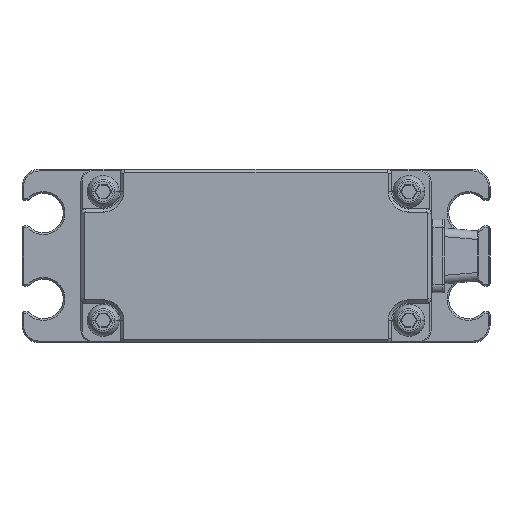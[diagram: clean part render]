
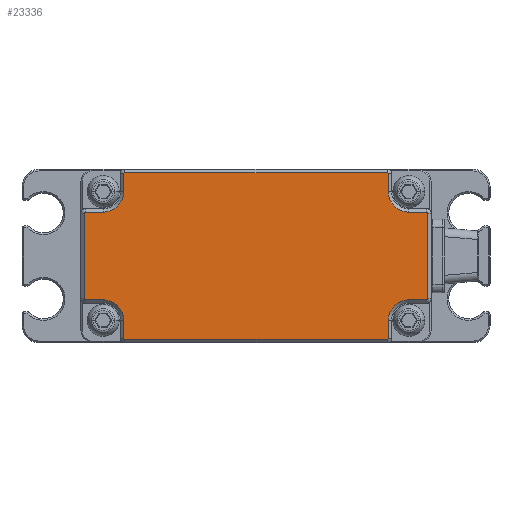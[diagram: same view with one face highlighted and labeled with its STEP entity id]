
A CAD part, front view. The second image highlights one B-rep face of the part: STEP entity #23336.
In plain terms, the highlighted planar face has unit normal (0, -1, 0).
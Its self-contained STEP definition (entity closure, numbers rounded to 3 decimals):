
#8034=CARTESIAN_POINT('',(15.3,-17.4,-9.6));
#8035=DIRECTION('',(0.,1.,0.));
#8036=DIRECTION('',(1.,0.,0.));
#8037=AXIS2_PLACEMENT_3D('',#8034,#8035,#8036);
#8039=DIRECTION('',(-1.,0.,0.));
#8040=VECTOR('',#8039,30.6);
#8041=CARTESIAN_POINT('',(15.3,-17.4,
-9.7));
#8042=LINE('',#8041,#8040);
#8043=CARTESIAN_POINT('',(-15.3,-17.4,-9.6));
#8044=DIRECTION('',(0.,1.,0.));
#8045=DIRECTION('',(0.,0.,-1.));
#8046=AXIS2_PLACEMENT_3D('',#8043,#8044,#8045);
#8048=DIRECTION('',(0.,0.,1.));
#8049=VECTOR('',#8048,2.1);
#8050=CARTESIAN_POINT('',(-15.4,-17.4,
-9.6));
#8051=LINE('',#8050,#8049);
#8052=CARTESIAN_POINT('',(-17.8,-17.4,-7.5));
#8053=DIRECTION('',(0.,-1.,0.));
#8054=DIRECTION('',(1.,0.,0.));
#8055=AXIS2_PLACEMENT_3D('',#8052,#8053,#8054);
#8057=DIRECTION('',(-1.,0.,0.));
#8058=VECTOR('',#8057,2.1);
#8059=CARTESIAN_POINT('',(-17.8,-17.4,
-5.1));
#8060=LINE('',#8059,#8058);
#8061=CARTESIAN_POINT('',(-19.9,-17.4,-5.));
#8062=DIRECTION('',(0.,1.,0.));
#8063=DIRECTION('',(0.,0.,-1.));
#8064=AXIS2_PLACEMENT_3D('',#8061,#8062,#8063);
#8066=DIRECTION('',(0.,0.,1.));
#8067=VECTOR('',#8066,10.);
#8068=CARTESIAN_POINT('',(-20.,-17.4,
-5.));
#8069=LINE('',#8068,#8067);
#8070=CARTESIAN_POINT('',(-19.9,-17.4,5.));
#8071=DIRECTION('',(0.,1.,0.));
#8072=DIRECTION('',(-1.,0.,0.));
#8073=AXIS2_PLACEMENT_3D('',#8070,#8071,#8072);
#8075=DIRECTION('',(1.,0.,0.));
#8076=VECTOR('',#8075,2.1);
#8077=CARTESIAN_POINT('',(-19.9,-17.4,
5.1));
#8078=LINE('',#8077,#8076);
#8079=CARTESIAN_POINT('',(-17.8,-17.4,7.5));
#8080=DIRECTION('',(0.,-1.,0.));
#8081=DIRECTION('',(0.,0.,-1.));
#8082=AXIS2_PLACEMENT_3D('',#8079,#8080,#8081);
#8084=DIRECTION('',(0.,0.,1.));
#8085=VECTOR('',#8084,2.1);
#8086=CARTESIAN_POINT('',(-15.4,-17.4,
7.5));
#8087=LINE('',#8086,#8085);
#8088=CARTESIAN_POINT('',(-15.3,-17.4,9.6));
#8089=DIRECTION('',(0.,1.,0.));
#8090=DIRECTION('',(-1.,0.,0.));
#8091=AXIS2_PLACEMENT_3D('',#8088,#8089,#8090);
#8093=DIRECTION('',(1.,0.,0.));
#8094=VECTOR('',#8093,30.6);
#8095=CARTESIAN_POINT('',(-15.3,-17.4,
9.7));
#8096=LINE('',#8095,#8094);
#8097=CARTESIAN_POINT('',(15.3,-17.4,9.6));
#8098=DIRECTION('',(0.,1.,0.));
#8099=DIRECTION('',(0.,0.,1.));
#8100=AXIS2_PLACEMENT_3D('',#8097,#8098,#8099);
#8102=DIRECTION('',(0.,0.,-1.));
#8103=VECTOR('',#8102,2.1);
#8104=CARTESIAN_POINT('',(15.4,-17.4,9.6));
#8105=LINE('',#8104,#8103);
#8106=CARTESIAN_POINT('',(17.8,-17.4,7.5));
#8107=DIRECTION('',(0.,-1.,0.));
#8108=DIRECTION('',(-1.,0.,0.));
#8109=AXIS2_PLACEMENT_3D('',#8106,#8107,#8108);
#8111=DIRECTION('',(1.,0.,0.));
#8112=VECTOR('',#8111,2.1);
#8113=CARTESIAN_POINT('',(17.8,-17.4,5.1));
#8114=LINE('',#8113,#8112);
#8115=CARTESIAN_POINT('',(19.9,-17.4,5.));
#8116=DIRECTION('',(0.,1.,0.));
#8117=DIRECTION('',(0.,0.,1.));
#8118=AXIS2_PLACEMENT_3D('',#8115,#8116,#8117);
#8120=DIRECTION('',(0.,0.,-1.));
#8121=VECTOR('',#8120,10.);
#8122=CARTESIAN_POINT('',(20.,-17.4,5.));
#8123=LINE('',#8122,#8121);
#8124=CARTESIAN_POINT('',(19.9,-17.4,-5.));
#8125=DIRECTION('',(0.,1.,0.));
#8126=DIRECTION('',(1.,0.,0.));
#8127=AXIS2_PLACEMENT_3D('',#8124,#8125,#8126);
#8129=DIRECTION('',(-1.,0.,0.));
#8130=VECTOR('',#8129,2.1);
#8131=CARTESIAN_POINT('',(19.9,-17.4,
-5.1));
#8132=LINE('',#8131,#8130);
#8133=CARTESIAN_POINT('',(17.8,-17.4,-7.5));
#8134=DIRECTION('',(0.,-1.,0.));
#8135=DIRECTION('',(0.,0.,1.));
#8136=AXIS2_PLACEMENT_3D('',#8133,#8134,#8135);
#8138=DIRECTION('',(0.,0.,-1.));
#8139=VECTOR('',#8138,2.1);
#8140=CARTESIAN_POINT('',(15.4,-17.4,
-7.5));
#8141=LINE('',#8140,#8139);
#11873=CARTESIAN_POINT('',(15.4,-17.4,-9.6));
#11874=CARTESIAN_POINT('',(15.3,-17.4,-9.7));
#11875=VERTEX_POINT('',#11873);
#11876=VERTEX_POINT('',#11874);
#11877=CARTESIAN_POINT('',(-15.3,-17.4,
-9.7));
#11878=VERTEX_POINT('',#11877);
#11879=CARTESIAN_POINT('',(-15.4,-17.4,-9.6));
#11880=VERTEX_POINT('',#11879);
#11881=CARTESIAN_POINT('',(-15.4,-17.4,
-7.5));
#11882=VERTEX_POINT('',#11881);
#11883=CARTESIAN_POINT('',(-17.8,-17.4,-5.1));
#11884=VERTEX_POINT('',#11883);
#11885=CARTESIAN_POINT('',(-19.9,-17.4,
-5.1));
#11886=VERTEX_POINT('',#11885);
#11887=CARTESIAN_POINT('',(-20.,-17.4,-5.));
#11888=VERTEX_POINT('',#11887);
#11889=CARTESIAN_POINT('',(-20.,-17.4,
5.));
#11890=VERTEX_POINT('',#11889);
#11891=CARTESIAN_POINT('',(-19.9,-17.4,5.1));
#11892=VERTEX_POINT('',#11891);
#11893=CARTESIAN_POINT('',(-17.8,-17.4,
5.1));
#11894=VERTEX_POINT('',#11893);
#11895=CARTESIAN_POINT('',(-15.4,-17.4,7.5));
#11896=VERTEX_POINT('',#11895);
#11897=CARTESIAN_POINT('',(-15.4,-17.4,
9.6));
#11898=VERTEX_POINT('',#11897);
#11899=CARTESIAN_POINT('',(-15.3,-17.4,9.7));
#11900=VERTEX_POINT('',#11899);
#11901=CARTESIAN_POINT('',(15.3,-17.4,
9.7));
#11902=VERTEX_POINT('',#11901);
#11903=CARTESIAN_POINT('',(15.4,-17.4,9.6));
#11904=VERTEX_POINT('',#11903);
#11905=CARTESIAN_POINT('',(15.4,-17.4,
7.5));
#11906=VERTEX_POINT('',#11905);
#11907=CARTESIAN_POINT('',(17.8,-17.4,5.1));
#11908=VERTEX_POINT('',#11907);
#11909=CARTESIAN_POINT('',(19.9,-17.4,
5.1));
#11910=VERTEX_POINT('',#11909);
#11911=CARTESIAN_POINT('',(20.,-17.4,5.));
#11912=VERTEX_POINT('',#11911);
#11913=CARTESIAN_POINT('',(20.,-17.4,
-5.));
#11914=VERTEX_POINT('',#11913);
#11915=CARTESIAN_POINT('',(19.9,-17.4,-5.1));
#11916=VERTEX_POINT('',#11915);
#11917=CARTESIAN_POINT('',(17.8,-17.4,
-5.1));
#11918=VERTEX_POINT('',#11917);
#11919=CARTESIAN_POINT('',(15.4,-17.4,-7.5));
#11920=VERTEX_POINT('',#11919);
#23282=CARTESIAN_POINT('',(0.,-17.4,0.));
#23283=DIRECTION('',(0.,1.,0.));
#23284=DIRECTION('',(1.,0.,0.));
#23285=AXIS2_PLACEMENT_3D('',#23282,#23283,#23284);
#23286=PLANE('',#23285);
#23288=ORIENTED_EDGE('',*,*,#23287,.T.);
#23290=ORIENTED_EDGE('',*,*,#23289,.T.);
#23292=ORIENTED_EDGE('',*,*,#23291,.T.);
#23294=ORIENTED_EDGE('',*,*,#23293,.T.);
#23296=ORIENTED_EDGE('',*,*,#23295,.T.);
#23298=ORIENTED_EDGE('',*,*,#23297,.T.);
#23300=ORIENTED_EDGE('',*,*,#23299,.T.);
#23302=ORIENTED_EDGE('',*,*,#23301,.T.);
#23304=ORIENTED_EDGE('',*,*,#23303,.T.);
#23306=ORIENTED_EDGE('',*,*,#23305,.T.);
#23308=ORIENTED_EDGE('',*,*,#23307,.T.);
#23310=ORIENTED_EDGE('',*,*,#23309,.T.);
#23312=ORIENTED_EDGE('',*,*,#23311,.T.);
#23314=ORIENTED_EDGE('',*,*,#23313,.T.);
#23316=ORIENTED_EDGE('',*,*,#23315,.T.);
#23318=ORIENTED_EDGE('',*,*,#23317,.T.);
#23320=ORIENTED_EDGE('',*,*,#23319,.T.);
#23322=ORIENTED_EDGE('',*,*,#23321,.T.);
#23324=ORIENTED_EDGE('',*,*,#23323,.T.);
#23326=ORIENTED_EDGE('',*,*,#23325,.T.);
#23328=ORIENTED_EDGE('',*,*,#23327,.T.);
#23329=ORIENTED_EDGE('',*,*,#23272,.T.);
#23331=ORIENTED_EDGE('',*,*,#23330,.T.);
#23333=ORIENTED_EDGE('',*,*,#23332,.T.);
#23334=EDGE_LOOP('',(#23288,#23290,#23292,#23294,#23296,#23298,#23300,#23302,
#23304,#23306,#23308,#23310,#23312,#23314,#23316,#23318,#23320,#23322,#23324,
#23326,#23328,#23329,#23331,#23333));
#23335=FACE_OUTER_BOUND('',#23334,.F.);
#8038=CIRCLE('',#8037,0.1);
#8047=CIRCLE('',#8046,0.1);
#8056=CIRCLE('',#8055,2.4);
#8065=CIRCLE('',#8064,0.1);
#8074=CIRCLE('',#8073,0.1);
#8083=CIRCLE('',#8082,2.4);
#8092=CIRCLE('',#8091,0.1);
#8101=CIRCLE('',#8100,0.1);
#8110=CIRCLE('',#8109,2.4);
#8119=CIRCLE('',#8118,0.1);
#8128=CIRCLE('',#8127,0.1);
#8137=CIRCLE('',#8136,2.4);
#23272=EDGE_CURVE('',#11916,#11918,#8132,.T.);
#23287=EDGE_CURVE('',#11875,#11876,#8038,.T.);
#23289=EDGE_CURVE('',#11876,#11878,#8042,.T.);
#23291=EDGE_CURVE('',#11878,#11880,#8047,.T.);
#23293=EDGE_CURVE('',#11880,#11882,#8051,.T.);
#23295=EDGE_CURVE('',#11882,#11884,#8056,.T.);
#23297=EDGE_CURVE('',#11884,#11886,#8060,.T.);
#23299=EDGE_CURVE('',#11886,#11888,#8065,.T.);
#23301=EDGE_CURVE('',#11888,#11890,#8069,.T.);
#23303=EDGE_CURVE('',#11890,#11892,#8074,.T.);
#23305=EDGE_CURVE('',#11892,#11894,#8078,.T.);
#23307=EDGE_CURVE('',#11894,#11896,#8083,.T.);
#23309=EDGE_CURVE('',#11896,#11898,#8087,.T.);
#23311=EDGE_CURVE('',#11898,#11900,#8092,.T.);
#23313=EDGE_CURVE('',#11900,#11902,#8096,.T.);
#23315=EDGE_CURVE('',#11902,#11904,#8101,.T.);
#23317=EDGE_CURVE('',#11904,#11906,#8105,.T.);
#23319=EDGE_CURVE('',#11906,#11908,#8110,.T.);
#23321=EDGE_CURVE('',#11908,#11910,#8114,.T.);
#23323=EDGE_CURVE('',#11910,#11912,#8119,.T.);
#23325=EDGE_CURVE('',#11912,#11914,#8123,.T.);
#23327=EDGE_CURVE('',#11914,#11916,#8128,.T.);
#23330=EDGE_CURVE('',#11918,#11920,#8137,.T.);
#23332=EDGE_CURVE('',#11920,#11875,#8141,.T.);
#23336=ADVANCED_FACE('',(#23335),#23286,.F.);
